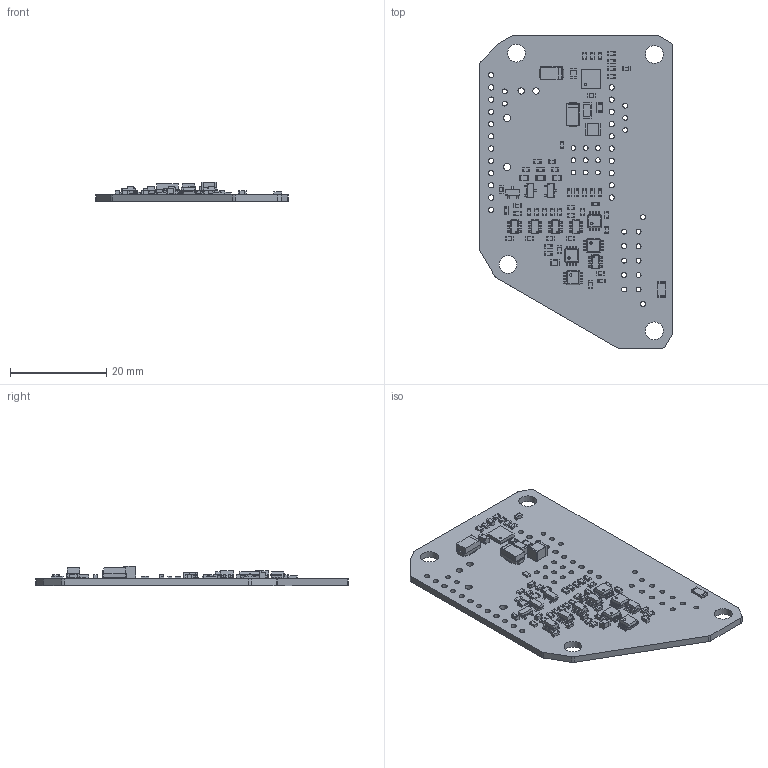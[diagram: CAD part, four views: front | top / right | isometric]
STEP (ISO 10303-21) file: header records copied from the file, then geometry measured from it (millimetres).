
FILE_DESCRIPTION(('KiCad electronic assembly'),'2;1');
FILE_NAME('cr.step','2026-11-17T10:31:23',('Pcbnew'),('Kicad'), 'Open CASCADE STEP processor 7.9','KiCad to STEP converter','Unknown' );
FILE_SCHEMA(('AUTOMOTIVE_DESIGN { 1 0 10303 214 1 1 1 1 }'));
Length unit declared in the file: millimetre
Products named in the file (14): cr 1; R_0603_1608Metric; C_0603_1608Metric; SOT-23-6; R_0805_2012Metric; SSOP-8_2.95x2.8mm_P0.65mm; D_SMA; SOT-23; C_1210_3225Metric; C_1206_3216Metric; Texas_RGE0024H_VQFN-24-1EP_4x4mm_P0.5mm_EP2.7x2.7mm; C_0805_2012Metric; R_1206_3216Metric; cr_PCB
Assembly tree (70 placements, depth 2):
  cr 1
    R_0603_1608Metric  x29
    C_0603_1608Metric  x16
    SOT-23-6  x5
    R_0805_2012Metric  x4
    SSOP-8_2.95x2.8mm_P0.65mm  x4
    D_SMA  x2
    SOT-23  x3
    C_1210_3225Metric
    C_1206_3216Metric
    Texas_RGE0024H_VQFN-24-1EP_4x4mm_P0.5mm_EP2.7x2.7mm
    C_0805_2012Metric  x2
    R_1206_3216Metric
    cr_PCB
Bounding box: 40.02 x 64.81 x 4.02 mm (x, y, z)
Volume: 3406.2 mm3; surface area: 5958.9 mm2
Topology: 70 solids, 70 shells, 3151 faces, 8327 edges, 5372 vertices
Faces by surface type: plane 2059, cylinder 880, bspline 212
Full cylindrical faces by diameter (mm): 0.3 x9, 0.4 x1, 1 x14, 1.02 x12, 1.1 x22, 1.3 x2, 1.5 x2, 3.7 x4
Entity records: 32117 total; most frequent: CARTESIAN_POINT 4775, ORIENTED_EDGE 4384, DIRECTION 4185, EDGE_CURVE 2192, LINE 1655, VECTOR 1655, VERTEX_POINT 1423, AXIS2_PLACEMENT_3D 1265
